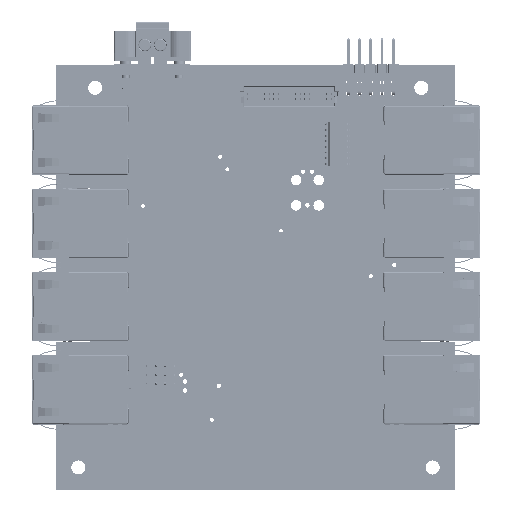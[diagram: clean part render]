
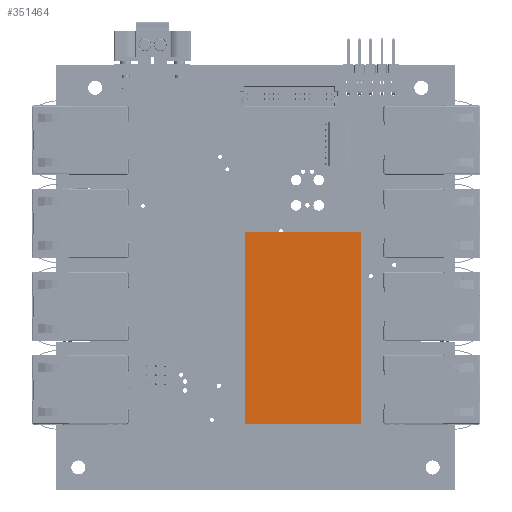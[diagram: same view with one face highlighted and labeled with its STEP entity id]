
A CAD part, top view. The second image highlights one B-rep face of the part: STEP entity #351464.
In plain terms, the highlighted planar face has unit normal (0, 0, 1) as drawn and (0, 1, 0) by its records, which use the part's own axes.
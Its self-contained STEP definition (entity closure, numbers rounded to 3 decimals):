
#351351 = VERTEX_POINT('',#351352);
#351352 = CARTESIAN_POINT('',(21.6,11.25,-13.125));
#351359 = PLANE('',#351360);
#351360 = AXIS2_PLACEMENT_3D('',#351361,#351362,#351363);
#351361 = CARTESIAN_POINT('',(13.125,5.75,13.125));
#351362 = DIRECTION('',(-0.544,0.839,0.));
#351363 = DIRECTION('',(-0.839,-0.544,0.));
#351371 = PLANE('',#351372);
#351372 = AXIS2_PLACEMENT_3D('',#351373,#351374,#351375);
#351373 = CARTESIAN_POINT('',(0.,-2.768,-13.125
    ));
#351374 = DIRECTION('',(0.,0.,1.));
#351375 = DIRECTION('',(1.,0.,0.));
#351383 = EDGE_CURVE('',#351384,#351351,#351386,.T.);
#351384 = VERTEX_POINT('',#351385);
#351385 = CARTESIAN_POINT('',(21.6,11.25,13.125));
#351386 = SURFACE_CURVE('',#351387,(#351391,#351398),.PCURVE_S1.);
#351387 = LINE('',#351388,#351389);
#351388 = CARTESIAN_POINT('',(21.6,11.25,13.125));
#351389 = VECTOR('',#351390,1.);
#351390 = DIRECTION('',(0.,0.,-1.));
#351391 = PCURVE('',#351359,#351392);
#351392 = DEFINITIONAL_REPRESENTATION('',(#351393),#351397);
#351393 = LINE('',#351394,#351395);
#351394 = CARTESIAN_POINT('',(-10.103,0.));
#351395 = VECTOR('',#351396,1.);
#351396 = DIRECTION('',(0.,-1.));
#351397 = ( GEOMETRIC_REPRESENTATION_CONTEXT(2) 
PARAMETRIC_REPRESENTATION_CONTEXT() REPRESENTATION_CONTEXT('2D SPACE',''
  ) );
#351398 = PCURVE('',#351399,#351404);
#351399 = PLANE('',#351400);
#351400 = AXIS2_PLACEMENT_3D('',#351401,#351402,#351403);
#351401 = CARTESIAN_POINT('',(-21.6,11.25,13.125));
#351402 = DIRECTION('',(0.,-1.,0.));
#351403 = DIRECTION('',(0.,0.,-1.));
#351404 = DEFINITIONAL_REPRESENTATION('',(#351405),#351409);
#351405 = LINE('',#351406,#351407);
#351406 = CARTESIAN_POINT('',(0.,43.2));
#351407 = VECTOR('',#351408,1.);
#351408 = DIRECTION('',(1.,0.));
#351409 = ( GEOMETRIC_REPRESENTATION_CONTEXT(2) 
PARAMETRIC_REPRESENTATION_CONTEXT() REPRESENTATION_CONTEXT('2D SPACE',''
  ) );
#351427 = PLANE('',#351428);
#351428 = AXIS2_PLACEMENT_3D('',#351429,#351430,#351431);
#351429 = CARTESIAN_POINT('',(0.,-2.768,13.125)
  );
#351430 = DIRECTION('',(0.,0.,1.));
#351431 = DIRECTION('',(1.,0.,0.));
#351464 = ADVANCED_FACE('',(#351465),#351399,.F.);
#351465 = FACE_BOUND('',#351466,.T.);
#351466 = EDGE_LOOP('',(#351467,#351490,#351518,#351539));
#351467 = ORIENTED_EDGE('',*,*,#351468,.T.);
#351468 = EDGE_CURVE('',#351351,#351469,#351471,.T.);
#351469 = VERTEX_POINT('',#351470);
#351470 = CARTESIAN_POINT('',(-21.6,11.25,-13.125));
#351471 = SURFACE_CURVE('',#351472,(#351476,#351483),.PCURVE_S1.);
#351472 = LINE('',#351473,#351474);
#351473 = CARTESIAN_POINT('',(-21.6,11.25,-13.125));
#351474 = VECTOR('',#351475,1.);
#351475 = DIRECTION('',(-1.,0.,0.));
#351476 = PCURVE('',#351399,#351477);
#351477 = DEFINITIONAL_REPRESENTATION('',(#351478),#351482);
#351478 = LINE('',#351479,#351480);
#351479 = CARTESIAN_POINT('',(26.25,0.));
#351480 = VECTOR('',#351481,1.);
#351481 = DIRECTION('',(0.,-1.));
#351482 = ( GEOMETRIC_REPRESENTATION_CONTEXT(2) 
PARAMETRIC_REPRESENTATION_CONTEXT() REPRESENTATION_CONTEXT('2D SPACE',''
  ) );
#351483 = PCURVE('',#351371,#351484);
#351484 = DEFINITIONAL_REPRESENTATION('',(#351485),#351489);
#351485 = LINE('',#351486,#351487);
#351486 = CARTESIAN_POINT('',(-21.6,14.018));
#351487 = VECTOR('',#351488,1.);
#351488 = DIRECTION('',(-1.,0.));
#351489 = ( GEOMETRIC_REPRESENTATION_CONTEXT(2) 
PARAMETRIC_REPRESENTATION_CONTEXT() REPRESENTATION_CONTEXT('2D SPACE',''
  ) );
#351490 = ORIENTED_EDGE('',*,*,#351491,.F.);
#351491 = EDGE_CURVE('',#351492,#351469,#351494,.T.);
#351492 = VERTEX_POINT('',#351493);
#351493 = CARTESIAN_POINT('',(-21.6,11.25,13.125));
#351494 = SURFACE_CURVE('',#351495,(#351499,#351506),.PCURVE_S1.);
#351495 = LINE('',#351496,#351497);
#351496 = CARTESIAN_POINT('',(-21.6,11.25,13.125));
#351497 = VECTOR('',#351498,1.);
#351498 = DIRECTION('',(0.,0.,-1.));
#351499 = PCURVE('',#351399,#351500);
#351500 = DEFINITIONAL_REPRESENTATION('',(#351501),#351505);
#351501 = LINE('',#351502,#351503);
#351502 = CARTESIAN_POINT('',(0.,0.));
#351503 = VECTOR('',#351504,1.);
#351504 = DIRECTION('',(1.,0.));
#351505 = ( GEOMETRIC_REPRESENTATION_CONTEXT(2) 
PARAMETRIC_REPRESENTATION_CONTEXT() REPRESENTATION_CONTEXT('2D SPACE',''
  ) );
#351506 = PCURVE('',#351507,#351512);
#351507 = PLANE('',#351508);
#351508 = AXIS2_PLACEMENT_3D('',#351509,#351510,#351511);
#351509 = CARTESIAN_POINT('',(-13.125,5.75,13.125));
#351510 = DIRECTION('',(0.544,0.839,0.));
#351511 = DIRECTION('',(-0.839,0.544,0.));
#351512 = DEFINITIONAL_REPRESENTATION('',(#351513),#351517);
#351513 = LINE('',#351514,#351515);
#351514 = CARTESIAN_POINT('',(10.103,0.));
#351515 = VECTOR('',#351516,1.);
#351516 = DIRECTION('',(0.,-1.));
#351517 = ( GEOMETRIC_REPRESENTATION_CONTEXT(2) 
PARAMETRIC_REPRESENTATION_CONTEXT() REPRESENTATION_CONTEXT('2D SPACE',''
  ) );
#351518 = ORIENTED_EDGE('',*,*,#351519,.F.);
#351519 = EDGE_CURVE('',#351384,#351492,#351520,.T.);
#351520 = SURFACE_CURVE('',#351521,(#351525,#351532),.PCURVE_S1.);
#351521 = LINE('',#351522,#351523);
#351522 = CARTESIAN_POINT('',(-21.6,11.25,13.125));
#351523 = VECTOR('',#351524,1.);
#351524 = DIRECTION('',(-1.,0.,0.));
#351525 = PCURVE('',#351399,#351526);
#351526 = DEFINITIONAL_REPRESENTATION('',(#351527),#351531);
#351527 = LINE('',#351528,#351529);
#351528 = CARTESIAN_POINT('',(0.,0.));
#351529 = VECTOR('',#351530,1.);
#351530 = DIRECTION('',(0.,-1.));
#351531 = ( GEOMETRIC_REPRESENTATION_CONTEXT(2) 
PARAMETRIC_REPRESENTATION_CONTEXT() REPRESENTATION_CONTEXT('2D SPACE',''
  ) );
#351532 = PCURVE('',#351427,#351533);
#351533 = DEFINITIONAL_REPRESENTATION('',(#351534),#351538);
#351534 = LINE('',#351535,#351536);
#351535 = CARTESIAN_POINT('',(-21.6,14.018));
#351536 = VECTOR('',#351537,1.);
#351537 = DIRECTION('',(-1.,0.));
#351538 = ( GEOMETRIC_REPRESENTATION_CONTEXT(2) 
PARAMETRIC_REPRESENTATION_CONTEXT() REPRESENTATION_CONTEXT('2D SPACE',''
  ) );
#351539 = ORIENTED_EDGE('',*,*,#351383,.T.);
